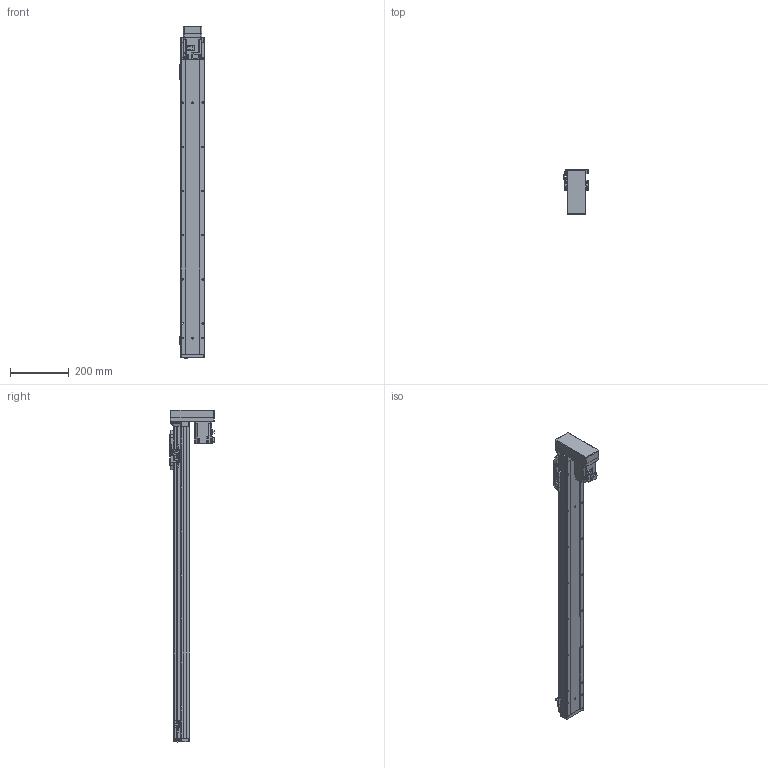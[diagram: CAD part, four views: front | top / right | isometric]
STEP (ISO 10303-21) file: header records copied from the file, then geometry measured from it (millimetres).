
FILE_DESCRIPTION (( 'STEP AP214' ), '1' );
FILE_NAME ('GSH8-900-BM-M20-1.step', '2025-01-07T06:09:26', ( '' ), ( '' ), 'SwSTEP 2.0', 'SolidWorks 2012', '' );
FILE_SCHEMA (( 'AUTOMOTIVE_DESIGN' ));
Length unit declared in the file: millimetre
Products named in the file (5): GSH8-BL-008; GSH8-900-BM-M20-1; HG-KR23_200W_Motor; GSH8-GY-004; GSH8-BL-011-900-M20
Assembly tree (4 placements, depth 2):
  GSH8-900-BM-M20-1
    GSH8-BL-011-900-M20
    GSH8-GY-004
    GSH8-BL-008
    HG-KR23_200W_Motor
Bounding box: 84 x 152.3 x 1128.2 mm (x, y, z)
Volume: 2531671.2 mm3; surface area: 660661.4 mm2
Topology: 4 solids, 8 shells, 1163 faces, 3062 edges, 1972 vertices
Faces by surface type: plane 654, cylinder 413, torus 42, cone 26, bspline 24, sphere 4
Entity records: 45996 total; most frequent: CARTESIAN_POINT 10798, DIRECTION 6218, ORIENTED_EDGE 6108, EDGE_CURVE 3054, AXIS2_PLACEMENT_3D 2096, VECTOR 2026, LINE 2026, VERTEX_POINT 1968
